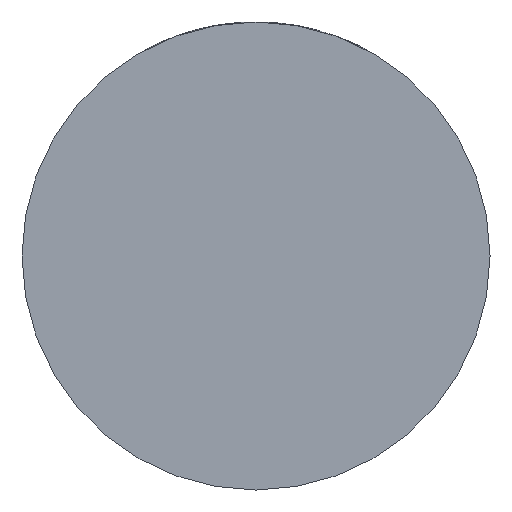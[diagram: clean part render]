
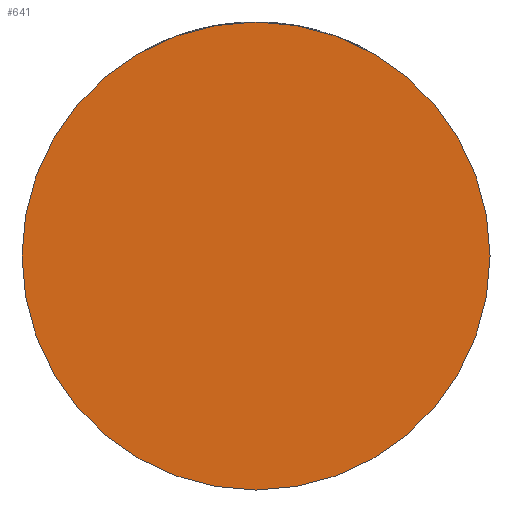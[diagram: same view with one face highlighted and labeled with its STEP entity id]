
A CAD part, front view. The second image highlights one B-rep face of the part: STEP entity #641.
In plain terms, the highlighted planar face has unit normal (0, -1, 0).
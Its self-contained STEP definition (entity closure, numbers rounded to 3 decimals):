
#41 = CARTESIAN_POINT ( 'NONE',  ( 0., -36., 0. ) ) ;
#163 = EDGE_LOOP ( 'NONE', ( #1324, #1474 ) ) ;
#193 = FACE_OUTER_BOUND ( 'NONE', #163, .T. ) ;
#257 = VERTEX_POINT ( 'NONE', #686 ) ;
#350 = AXIS2_PLACEMENT_3D ( 'NONE', #1674, #2688, #3387 ) ;
#641 = ADVANCED_FACE ( 'NONE', ( #193 ), #1579, .T. ) ;
#686 = CARTESIAN_POINT ( 'NONE',  ( 39., -36., 0. ) ) ;
#954 = AXIS2_PLACEMENT_3D ( 'NONE', #3315, #3729, #4306 ) ;
#1304 = AXIS2_PLACEMENT_3D ( 'NONE', #41, #2806, #4103 ) ;
#1324 = ORIENTED_EDGE ( 'NONE', *, *, #3353, .T. ) ;
#1474 = ORIENTED_EDGE ( 'NONE', *, *, #3542, .T. ) ;
#1579 = PLANE ( 'NONE',  #954 ) ;
#1674 = CARTESIAN_POINT ( 'NONE',  ( 0., -36., 0. ) ) ;
#2005 = CARTESIAN_POINT ( 'NONE',  ( -39., -36., 0. ) ) ;
#2688 = DIRECTION ( 'NONE',  ( 0., -1., 0. ) ) ;
#2806 = DIRECTION ( 'NONE',  ( 0., -1., 0. ) ) ;
#3196 = VERTEX_POINT ( 'NONE', #2005 ) ;
#3315 = CARTESIAN_POINT ( 'NONE',  ( 0., -36., 0. ) ) ;
#3353 = EDGE_CURVE ( 'NONE', #3196, #257, #4397, .T. ) ;
#3387 = DIRECTION ( 'NONE',  ( 1., 0., 0. ) ) ;
#3542 = EDGE_CURVE ( 'NONE', #257, #3196, #4048, .T. ) ;
#3729 = DIRECTION ( 'NONE',  ( 0., -1., 0. ) ) ;
#4048 = CIRCLE ( 'NONE', #1304, 39. ) ;
#4103 = DIRECTION ( 'NONE',  ( 1., 0., 0. ) ) ;
#4306 = DIRECTION ( 'NONE',  ( 1., 0., 0. ) ) ;
#4397 = CIRCLE ( 'NONE', #350, 39. ) ;
